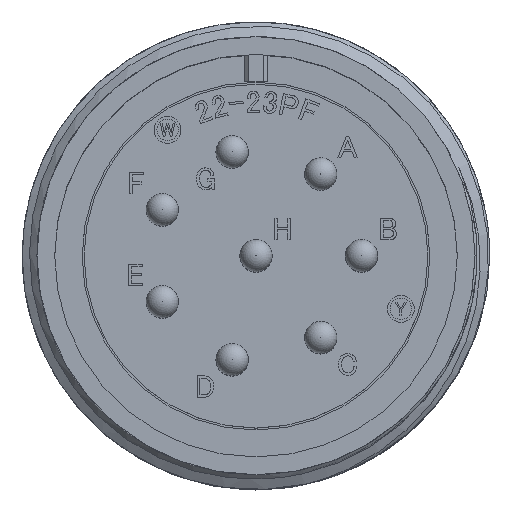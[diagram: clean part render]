
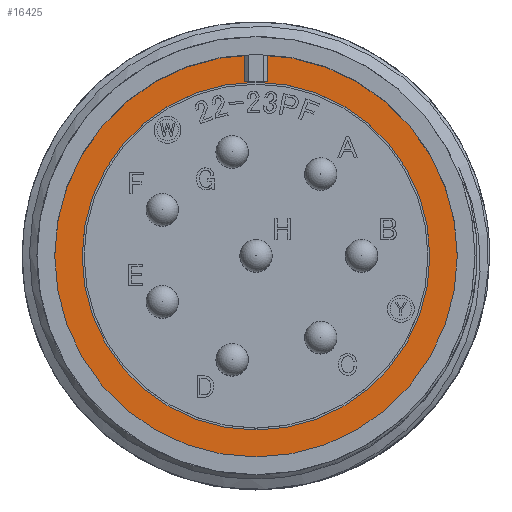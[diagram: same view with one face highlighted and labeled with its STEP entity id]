
A CAD part, top view. The second image highlights one B-rep face of the part: STEP entity #16425.
In plain terms, the highlighted planar face has unit normal (0, 0, 1).
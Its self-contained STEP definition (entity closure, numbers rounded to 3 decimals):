
#945 = DIRECTION ( 'NONE',  ( -1., 0., 0. ) ) ;
#3342 = PLANE ( 'NONE',  #3448 ) ;
#3448 = AXIS2_PLACEMENT_3D ( 'NONE', #19330, #21747, #945 ) ;
#4099 = FACE_BOUND ( 'NONE', #27890, .T. ) ;
#4558 = AXIS2_PLACEMENT_3D ( 'NONE', #33678, #12604, #9840 ) ;
#5379 = VERTEX_POINT ( 'NONE', #16996 ) ;
#6393 = CARTESIAN_POINT ( 'NONE',  ( 0., 0., -19.18 ) ) ;
#7207 = CARTESIAN_POINT ( 'NONE',  ( 12.97, 0., -19.18 ) ) ;
#9507 = ORIENTED_EDGE ( 'NONE', *, *, #32130, .F. ) ;
#9840 = DIRECTION ( 'NONE',  ( 1., 0., 0. ) ) ;
#9894 = CIRCLE ( 'NONE', #11802, 15.015 ) ;
#11105 = VERTEX_POINT ( 'NONE', #7207 ) ;
#11802 = AXIS2_PLACEMENT_3D ( 'NONE', #6393, #22365, #27440 ) ;
#12604 = DIRECTION ( 'NONE',  ( 0., 0., 1. ) ) ;
#12729 = FACE_OUTER_BOUND ( 'NONE', #15271, .T. ) ;
#15271 = EDGE_LOOP ( 'NONE', ( #18918 ) ) ;
#15973 = EDGE_CURVE ( 'NONE', #5379, #5379, #9894, .T. ) ;
#16425 = ADVANCED_FACE ( 'NONE', ( #4099, #12729 ), #3342, .F. ) ;
#16996 = CARTESIAN_POINT ( 'NONE',  ( 15.015, 0., -19.18 ) ) ;
#18918 = ORIENTED_EDGE ( 'NONE', *, *, #15973, .T. ) ;
#19330 = CARTESIAN_POINT ( 'NONE',  ( 0., 12.97, -19.18 ) ) ;
#21747 = DIRECTION ( 'NONE',  ( 0., 0., -1. ) ) ;
#22365 = DIRECTION ( 'NONE',  ( 0., 0., 1. ) ) ;
#27440 = DIRECTION ( 'NONE',  ( 1., 0., 0. ) ) ;
#27890 = EDGE_LOOP ( 'NONE', ( #9507 ) ) ;
#29703 = CIRCLE ( 'NONE', #4558, 12.97 ) ;
#32130 = EDGE_CURVE ( 'NONE', #11105, #11105, #29703, .T. ) ;
#33678 = CARTESIAN_POINT ( 'NONE',  ( 0., 0., -19.18 ) ) ;
